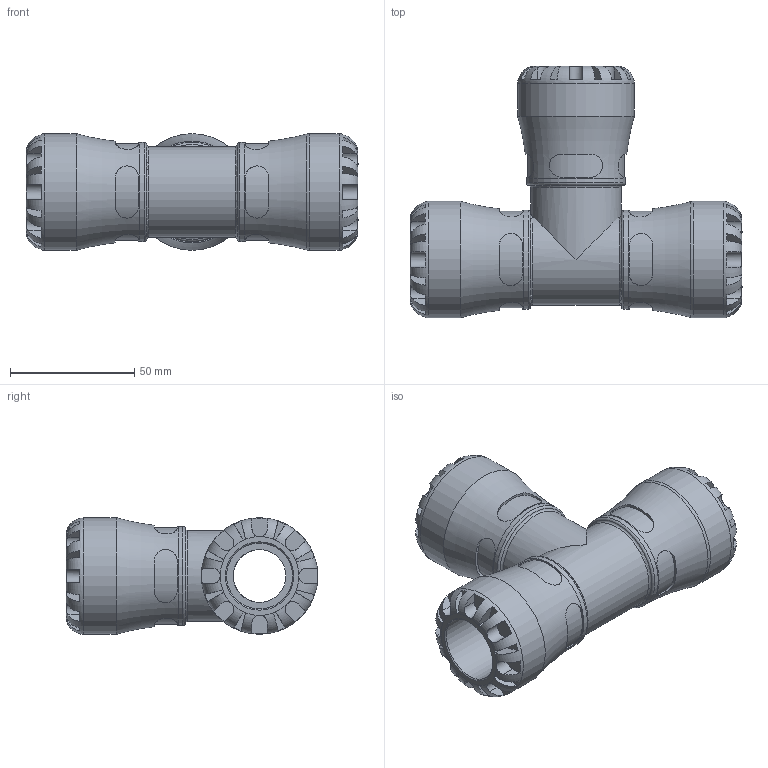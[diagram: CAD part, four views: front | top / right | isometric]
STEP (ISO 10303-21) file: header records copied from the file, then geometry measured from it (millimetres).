
FILE_DESCRIPTION(/* description */ ('PLASSON TEE 3/4''''IPS SERIES 1'),/* implementation_level */ '2;1');
FILE_NAME(/* name */ 'C:\Dropbox\KIMPROJECTS-Inventor 2019\99-16-3568-Processing Inch\ASTM S1 2021\1004A6\1004A6007.ipt.stp',/* time_stamp */ '2021-09-02T12:00:44+03:00',/* author */ ('KIM'),/* organization */ (''),/* preprocessor_version */ 'ST-DEVELOPER v17.2',/* originating_system */ 'Autodesk Inventor 2019',/* authorisation */ '');
FILE_SCHEMA (('AUTOMOTIVE_DESIGN { 1 0 10303 214 3 1 1 }'));
Length unit declared in the file: inch
Products named in the file (1): 1004A6007
Bounding box: 133.86 x 101.47 x 46.99 mm (x, y, z)
Volume: 163111.2 mm3; surface area: 47405 mm2
Topology: 1 solids, 1 shells, 288 faces, 769 edges, 495 vertices
Faces by surface type: plane 176, cylinder 97, torus 13, cone 2
Full cylindrical faces by diameter (mm): 21.28 x1, 22.167 x1, 26.6 x3, 36.652 x1, 39.941 x3, 46.99 x3
Entity records: 11856 total; most frequent: CARTESIAN_POINT 4521, ORIENTED_EDGE 1538, DIRECTION 1464, EDGE_CURVE 769, AXIS2_PLACEMENT_3D 604, VERTEX_POINT 495, CIRCLE 311, EDGE_LOOP 304
